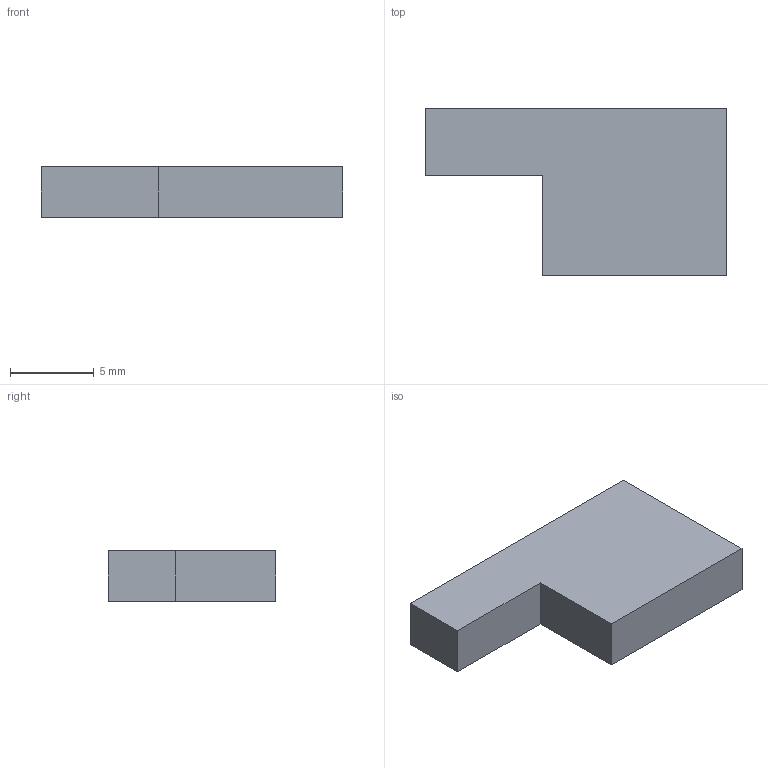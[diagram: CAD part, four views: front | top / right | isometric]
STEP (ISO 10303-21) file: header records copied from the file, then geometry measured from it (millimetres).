
FILE_DESCRIPTION((''),'2;1');
FILE_NAME('C:\MRFR\SHOCK\Hexen\STP\safe.stp','2013-08-15T20:13:30',('mrfr'),(''),'Autodesk Inventor 2013','Autodesk Inventor 2013','');
FILE_SCHEMA(('AUTOMOTIVE_DESIGN { 1 0 10303 214 1 1 1 1 }'));
Length unit declared in the file: millimetre
Products named in the file (1): safe
Bounding box: 18 x 10 x 3 mm (x, y, z)
Volume: 414 mm3; surface area: 444 mm2
Topology: 1 solids, 1 shells, 8 faces, 18 edges, 12 vertices
Faces by surface type: plane 8
Entity records: 248 total; most frequent: CARTESIAN_POINT 39, DIRECTION 36, ORIENTED_EDGE 36, VECTOR 18, LINE 18, EDGE_CURVE 18, VERTEX_POINT 12, AXIS2_PLACEMENT_3D 9
